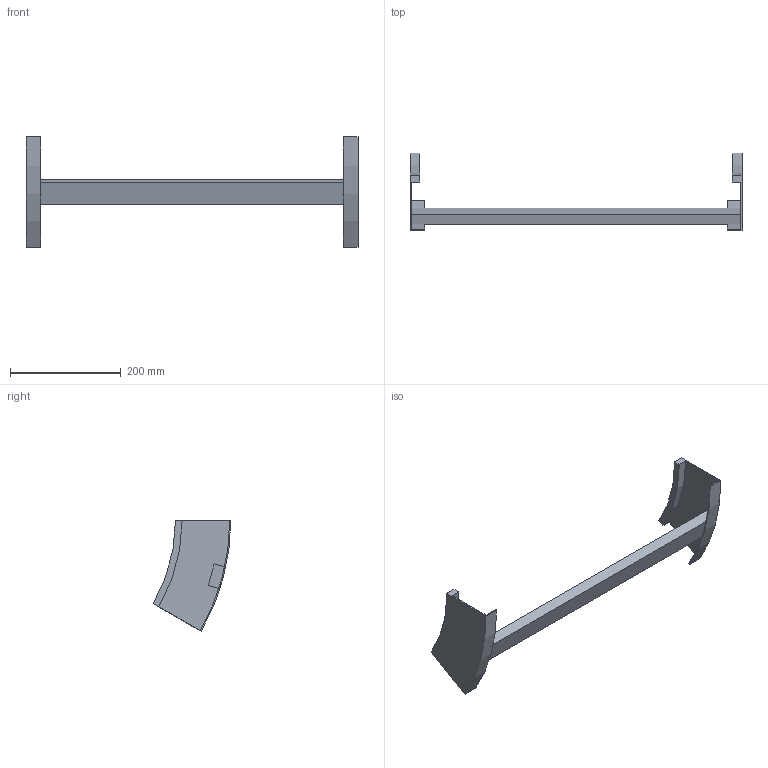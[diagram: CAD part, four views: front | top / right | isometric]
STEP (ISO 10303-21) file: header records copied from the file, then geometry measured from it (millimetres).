
FILE_DESCRIPTION (( 'STEP AP214' ), '1' );
FILE_NAME ('B2X32B3D600XX.step', '2025-03-20T09:58:16', ( '' ), ( '' ), 'SwSTEP 2.0', 'SolidWorks 2023', '' );
FILE_SCHEMA (( 'AUTOMOTIVE_DESIGN' ));
Length unit declared in the file: millimetre
Products named in the file (3): B2_LONGH.SALITA_30°_H100_R300; TRAVERSINO_600; B2X32B3D600XX
Assembly tree (3 placements, depth 2):
  B2X32B3D600XX
    B2_LONGH.SALITA_30°_H100_R300  x2
    TRAVERSINO_600
Bounding box: 600 x 140.19 x 200 mm (x, y, z)
Volume: 638480.4 mm3; surface area: 181419.7 mm2
Topology: 3 solids, 3 shells, 26 faces, 60 edges, 40 vertices
Faces by surface type: plane 18, cylinder 8
Entity records: 544 total; most frequent: DIRECTION 88, CARTESIAN_POINT 82, ORIENTED_EDGE 72, EDGE_CURVE 36, AXIS2_PLACEMENT_3D 30, LINE 28, VECTOR 28, VERTEX_POINT 24
